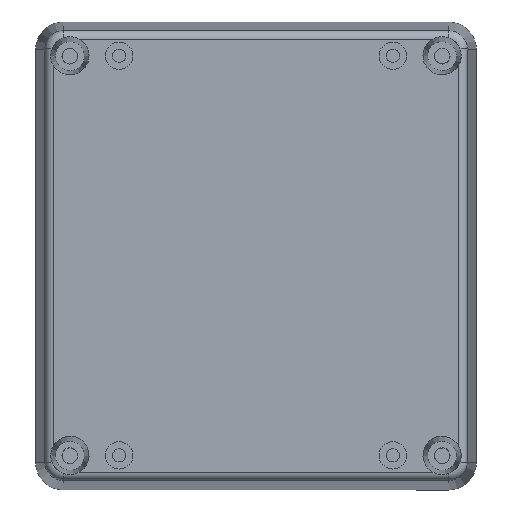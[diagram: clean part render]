
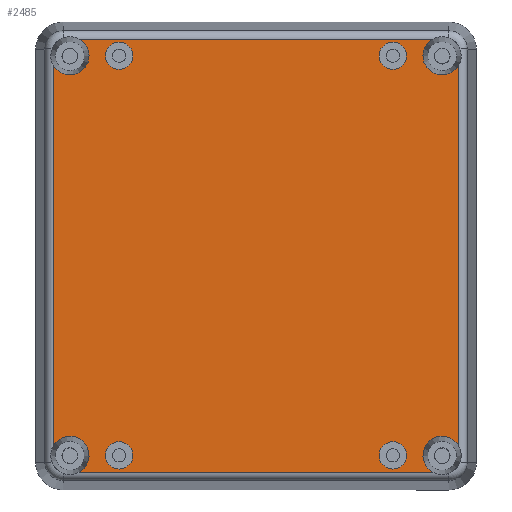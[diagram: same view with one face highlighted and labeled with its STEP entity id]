
A CAD part, top view. The second image highlights one B-rep face of the part: STEP entity #2485.
In plain terms, the highlighted planar face has unit normal (0, 0, 1).
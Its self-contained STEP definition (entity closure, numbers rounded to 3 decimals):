
#1247=CARTESIAN_POINT('',(37.068,-34.815,40.0));
#1248=VERTEX_POINT('',#1247);
#1249=CARTESIAN_POINT('',(37.068,34.815,40.0));
#1250=VERTEX_POINT('',#1249);
#1251=CARTESIAN_POINT('',(37.068,34.815,40.0));
#1252=DIRECTION('',(0.0,-1.0,0.0));
#1253=VECTOR('',#1252,69.63);
#1254=LINE('',#1251,#1253);
#1255=EDGE_CURVE('',#1248,#1250,#1254,.F.);
#2375=CARTESIAN_POINT('',(-35.25,-37.75,40.0));
#2376=DIRECTION('',(0.0,0.0,1.0));
#2377=DIRECTION('',(1.0,0.0,0.0));
#2378=AXIS2_PLACEMENT_3D('',#2375,#2376,#2377);
#2379=PLANE('',#2378);
#2380=CARTESIAN_POINT('',(-37.068,34.815,40.0));
#2381=VERTEX_POINT('',#2380);
#2382=CARTESIAN_POINT('',(-32.315,39.568,40.0));
#2383=VERTEX_POINT('',#2382);
#2384=CARTESIAN_POINT('',(-34.0,36.5,40.0));
#2385=DIRECTION('',(0.0,0.0,1.0));
#2386=DIRECTION('',(1.0,0.0,0.0));
#2387=AXIS2_PLACEMENT_3D('',#2384,#2385,#2386);
#2388=CIRCLE('',#2387,3.5);
#2389=EDGE_CURVE('',#2381,#2383,#2388,.T.);
#2390=ORIENTED_EDGE('',*,*,#2389,.F.);
#2391=CARTESIAN_POINT('',(-37.068,-34.815,40.0));
#2392=VERTEX_POINT('',#2391);
#2393=CARTESIAN_POINT('',(-37.068,-34.815,40.0));
#2394=DIRECTION('',(0.0,1.0,0.0));
#2395=VECTOR('',#2394,69.63);
#2396=LINE('',#2393,#2395);
#2397=EDGE_CURVE('',#2381,#2392,#2396,.F.);
#2398=ORIENTED_EDGE('',*,*,#2397,.T.);
#2399=CARTESIAN_POINT('',(-32.315,-39.568,40.0));
#2400=VERTEX_POINT('',#2399);
#2401=CARTESIAN_POINT('',(-34.0,-36.5,40.0));
#2402=DIRECTION('',(0.0,0.0,-1.0));
#2403=DIRECTION('',(-1.0,0.0,0.0));
#2404=AXIS2_PLACEMENT_3D('',#2401,#2402,#2403);
#2405=CIRCLE('',#2404,3.5);
#2406=EDGE_CURVE('',#2392,#2400,#2405,.T.);
#2407=ORIENTED_EDGE('',*,*,#2406,.T.);
#2408=CARTESIAN_POINT('',(32.315,-39.568,40.0));
#2409=VERTEX_POINT('',#2408);
#2410=CARTESIAN_POINT('',(32.315,-39.568,40.0));
#2411=DIRECTION('',(-1.0,0.0,0.0));
#2412=VECTOR('',#2411,64.63);
#2413=LINE('',#2410,#2412);
#2414=EDGE_CURVE('',#2400,#2409,#2413,.F.);
#2415=ORIENTED_EDGE('',*,*,#2414,.T.);
#2416=CARTESIAN_POINT('',(34.0,-36.5,40.0));
#2417=DIRECTION('',(0.0,0.0,1.0));
#2418=DIRECTION('',(1.0,0.0,0.0));
#2419=AXIS2_PLACEMENT_3D('',#2416,#2417,#2418);
#2420=CIRCLE('',#2419,3.5);
#2421=EDGE_CURVE('',#1248,#2409,#2420,.T.);
#2422=ORIENTED_EDGE('',*,*,#2421,.F.);
#2423=ORIENTED_EDGE('',*,*,#1255,.T.);
#2424=CARTESIAN_POINT('',(32.315,39.568,40.0));
#2425=VERTEX_POINT('',#2424);
#2426=CARTESIAN_POINT('',(34.0,36.5,40.0));
#2427=DIRECTION('',(0.0,0.0,-1.0));
#2428=DIRECTION('',(-1.0,0.0,0.0));
#2429=AXIS2_PLACEMENT_3D('',#2426,#2427,#2428);
#2430=CIRCLE('',#2429,3.5);
#2431=EDGE_CURVE('',#1250,#2425,#2430,.T.);
#2432=ORIENTED_EDGE('',*,*,#2431,.T.);
#2433=CARTESIAN_POINT('',(-32.315,39.568,40.0));
#2434=DIRECTION('',(1.0,0.0,0.0));
#2435=VECTOR('',#2434,64.63);
#2436=LINE('',#2433,#2435);
#2437=EDGE_CURVE('',#2425,#2383,#2436,.F.);
#2438=ORIENTED_EDGE('',*,*,#2437,.T.);
#2439=EDGE_LOOP('',(#2390,#2398,#2407,#2415,#2422,#2423,#2432,#2438));
#2440=FACE_OUTER_BOUND('',#2439,.T.);
#2441=CARTESIAN_POINT('',(-27.5,36.5,40.0));
#2442=VERTEX_POINT('',#2441);
#2443=CARTESIAN_POINT('',(-25.0,36.5,40.0));
#2444=DIRECTION('',(0.0,0.0,-1.0));
#2445=DIRECTION('',(-1.0,0.0,0.0));
#2446=AXIS2_PLACEMENT_3D('',#2443,#2444,#2445);
#2447=CIRCLE('',#2446,2.5);
#2448=EDGE_CURVE('',#2442,#2442,#2447,.T.);
#2449=ORIENTED_EDGE('',*,*,#2448,.T.);
#2450=EDGE_LOOP('',(#2449));
#2451=FACE_BOUND('',#2450,.T.);
#2452=CARTESIAN_POINT('',(-22.5,-36.5,40.0));
#2453=VERTEX_POINT('',#2452);
#2454=CARTESIAN_POINT('',(-25.0,-36.5,40.0));
#2455=DIRECTION('',(0.0,0.0,1.0));
#2456=DIRECTION('',(1.0,0.0,0.0));
#2457=AXIS2_PLACEMENT_3D('',#2454,#2455,#2456);
#2458=CIRCLE('',#2457,2.5);
#2459=EDGE_CURVE('',#2453,#2453,#2458,.T.);
#2460=ORIENTED_EDGE('',*,*,#2459,.F.);
#2461=EDGE_LOOP('',(#2460));
#2462=FACE_BOUND('',#2461,.T.);
#2463=CARTESIAN_POINT('',(27.5,36.5,40.0));
#2464=VERTEX_POINT('',#2463);
#2465=CARTESIAN_POINT('',(25.0,36.5,40.0));
#2466=DIRECTION('',(0.0,0.0,1.0));
#2467=DIRECTION('',(1.0,0.0,0.0));
#2468=AXIS2_PLACEMENT_3D('',#2465,#2466,#2467);
#2469=CIRCLE('',#2468,2.5);
#2470=EDGE_CURVE('',#2464,#2464,#2469,.T.);
#2471=ORIENTED_EDGE('',*,*,#2470,.F.);
#2472=EDGE_LOOP('',(#2471));
#2473=FACE_BOUND('',#2472,.T.);
#2474=CARTESIAN_POINT('',(22.5,-36.5,40.0));
#2475=VERTEX_POINT('',#2474);
#2476=CARTESIAN_POINT('',(25.0,-36.5,40.0));
#2477=DIRECTION('',(0.0,0.0,-1.0));
#2478=DIRECTION('',(-1.0,0.0,0.0));
#2479=AXIS2_PLACEMENT_3D('',#2476,#2477,#2478);
#2480=CIRCLE('',#2479,2.5);
#2481=EDGE_CURVE('',#2475,#2475,#2480,.T.);
#2482=ORIENTED_EDGE('',*,*,#2481,.T.);
#2483=EDGE_LOOP('',(#2482));
#2484=FACE_BOUND('',#2483,.T.);
#2485=ADVANCED_FACE('',(#2440,#2451,#2462,#2473,#2484),#2379,.T.);
